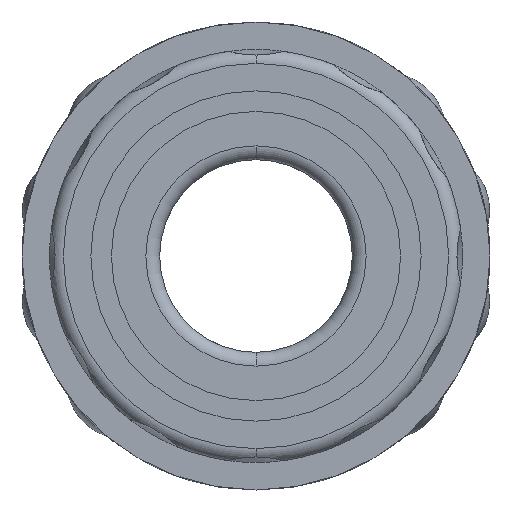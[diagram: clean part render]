
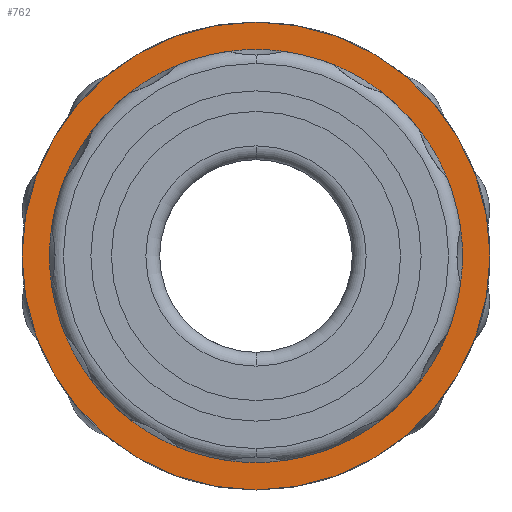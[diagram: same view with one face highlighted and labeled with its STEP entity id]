
A CAD part, front view. The second image highlights one B-rep face of the part: STEP entity #762.
In plain terms, the highlighted planar face has unit normal (0, -1, 0).
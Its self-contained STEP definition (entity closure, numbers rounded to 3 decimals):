
#505 = CARTESIAN_POINT ( 'NONE',  ( 16104.833, 2684.994, -7.5 ) ) ;
#645 = DIRECTION ( 'NONE',  ( 0., -1., 0. ) ) ;
#762 = ADVANCED_FACE ( 'NONE', ( #1795, #7016 ), #3887, .F. ) ;
#1209 = EDGE_LOOP ( 'NONE', ( #6334, #3279 ) ) ;
#1237 = EDGE_CURVE ( 'NONE', #5652, #4458, #4533, .T. ) ;
#1277 = CARTESIAN_POINT ( 'NONE',  ( 16096.333, 2684.994, 0. ) ) ;
#1396 = AXIS2_PLACEMENT_3D ( 'NONE', #2448, #6410, #3788 ) ;
#1424 = EDGE_CURVE ( 'NONE', #3894, #2302, #5358, .T. ) ;
#1572 = CARTESIAN_POINT ( 'NONE',  ( 16104.833, 2684.994, 0. ) ) ;
#1600 = DIRECTION ( 'NONE',  ( 0., 0., -1. ) ) ;
#1643 = CARTESIAN_POINT ( 'NONE',  ( 16104.833, 2684.994, 8.5 ) ) ;
#1795 = FACE_BOUND ( 'NONE', #1209, .T. ) ;
#2250 = DIRECTION ( 'NONE',  ( 0., -1., 0. ) ) ;
#2302 = VERTEX_POINT ( 'NONE', #4624 ) ;
#2335 = EDGE_LOOP ( 'NONE', ( #4648, #3112 ) ) ;
#2448 = CARTESIAN_POINT ( 'NONE',  ( 16104.833, 2684.994, 0. ) ) ;
#2626 = EDGE_CURVE ( 'NONE', #2302, #3894, #6979, .T. ) ;
#2637 = AXIS2_PLACEMENT_3D ( 'NONE', #4233, #2250, #5505 ) ;
#3112 = ORIENTED_EDGE ( 'NONE', *, *, #7984, .T. ) ;
#3194 = AXIS2_PLACEMENT_3D ( 'NONE', #1572, #5489, #1600 ) ;
#3279 = ORIENTED_EDGE ( 'NONE', *, *, #2626, .F. ) ;
#3788 = DIRECTION ( 'NONE',  ( 0., 0., -1. ) ) ;
#3887 = PLANE ( 'NONE',  #5997 ) ;
#3894 = VERTEX_POINT ( 'NONE', #505 ) ;
#4233 = CARTESIAN_POINT ( 'NONE',  ( 16104.833, 2684.994, 0. ) ) ;
#4458 = VERTEX_POINT ( 'NONE', #1643 ) ;
#4533 = CIRCLE ( 'NONE', #8417, 8.5 ) ;
#4590 = DIRECTION ( 'NONE',  ( 0., 0., 1. ) ) ;
#4624 = CARTESIAN_POINT ( 'NONE',  ( 16104.833, 2684.994, 7.5 ) ) ;
#4648 = ORIENTED_EDGE ( 'NONE', *, *, #1237, .T. ) ;
#5358 = CIRCLE ( 'NONE', #1396, 7.5 ) ;
#5489 = DIRECTION ( 'NONE',  ( 0., -1., 0. ) ) ;
#5505 = DIRECTION ( 'NONE',  ( 0., 0., -1. ) ) ;
#5652 = VERTEX_POINT ( 'NONE', #8161 ) ;
#5997 = AXIS2_PLACEMENT_3D ( 'NONE', #1277, #7185, #4590 ) ;
#6334 = ORIENTED_EDGE ( 'NONE', *, *, #1424, .F. ) ;
#6410 = DIRECTION ( 'NONE',  ( 0., -1., 0. ) ) ;
#6503 = CARTESIAN_POINT ( 'NONE',  ( 16104.833, 2684.994, 0. ) ) ;
#6979 = CIRCLE ( 'NONE', #3194, 7.5 ) ;
#7016 = FACE_OUTER_BOUND ( 'NONE', #2335, .T. ) ;
#7185 = DIRECTION ( 'NONE',  ( 0., 1., 0. ) ) ;
#7825 = DIRECTION ( 'NONE',  ( 0., 0., -1. ) ) ;
#7984 = EDGE_CURVE ( 'NONE', #4458, #5652, #8131, .T. ) ;
#8131 = CIRCLE ( 'NONE', #2637, 8.5 ) ;
#8161 = CARTESIAN_POINT ( 'NONE',  ( 16104.833, 2684.994, -8.5 ) ) ;
#8417 = AXIS2_PLACEMENT_3D ( 'NONE', #6503, #645, #7825 ) ;
